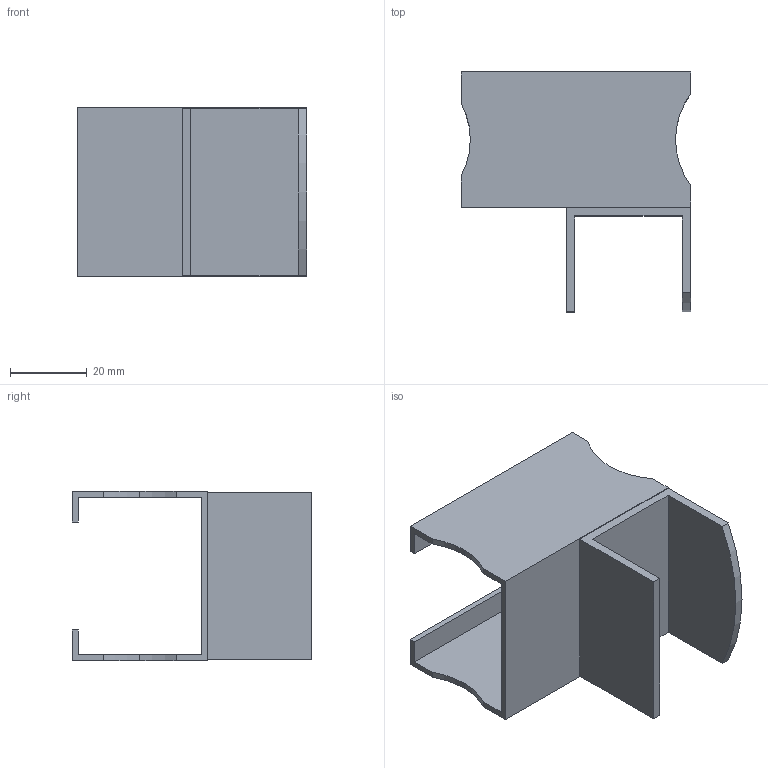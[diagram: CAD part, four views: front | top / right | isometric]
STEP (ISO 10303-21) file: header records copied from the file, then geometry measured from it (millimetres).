
FILE_DESCRIPTION (( 'STEP AP214' ), '1' );
FILE_NAME ('JB-504.step', '2023-12-26T01:20:18', ( 'catia' ), ( 'HP Inc.' ), 'SwSTEP 2.0', 'SolidWorks 2021', '' );
FILE_SCHEMA (( 'AUTOMOTIVE_DESIGN' ));
Length unit declared in the file: millimetre
Products named in the file (1): JB-504
Bounding box: 60 x 62.6 x 44.2 mm (x, y, z)
Volume: 19789.7 mm3; surface area: 19938.8 mm2
Topology: 1 solids, 1 shells, 32 faces, 90 edges, 60 vertices
Faces by surface type: plane 25, cylinder 7
Entity records: 1062 total; most frequent: CARTESIAN_POINT 183, ORIENTED_EDGE 180, DIRECTION 170, EDGE_CURVE 90, VECTOR 76, LINE 76, VERTEX_POINT 60, AXIS2_PLACEMENT_3D 47
